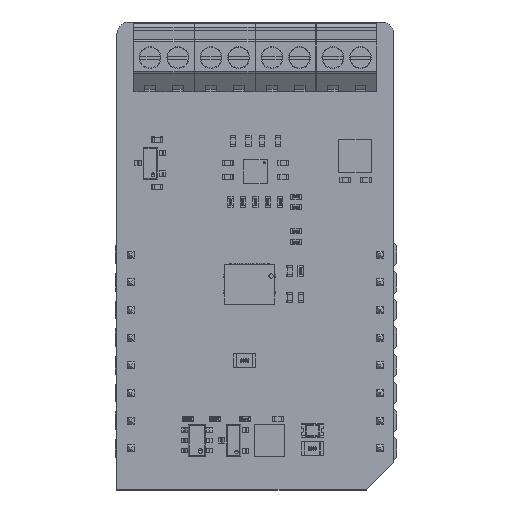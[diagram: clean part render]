
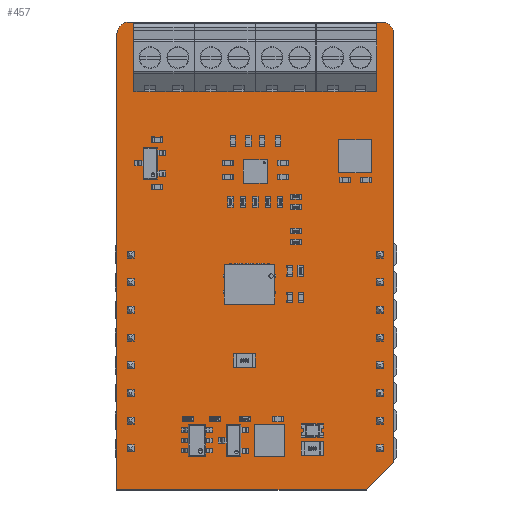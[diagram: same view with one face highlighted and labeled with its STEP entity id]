
A CAD part, top view. The second image highlights one B-rep face of the part: STEP entity #457.
In plain terms, the highlighted planar face has unit normal (0, 0, 1).
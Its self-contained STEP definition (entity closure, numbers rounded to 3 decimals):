
#228 = VERTEX_POINT('',#229);
#229 = CARTESIAN_POINT('',(-1.27,-3.81,1.65));
#235 = EDGE_CURVE('',#228,#236,#238,.T.);
#236 = VERTEX_POINT('',#237);
#237 = CARTESIAN_POINT('',(-1.27,37.989,1.65));
#238 = LINE('',#239,#240);
#239 = CARTESIAN_POINT('',(-1.27,-3.81,1.65));
#240 = VECTOR('',#241,1.);
#241 = DIRECTION('',(0.,1.,0.));
#266 = EDGE_CURVE('',#236,#267,#269,.T.);
#267 = VERTEX_POINT('',#268);
#268 = CARTESIAN_POINT('',(-0.143,39.116,1.65));
#269 = CIRCLE('',#270,1.127);
#270 = AXIS2_PLACEMENT_3D('',#271,#272,#273);
#271 = CARTESIAN_POINT('',(-0.143,37.989,1.65));
#272 = DIRECTION('',(0.,0.,-1.));
#273 = DIRECTION('',(-1.,0.,-0.));
#299 = EDGE_CURVE('',#267,#300,#302,.T.);
#300 = VERTEX_POINT('',#301);
#301 = CARTESIAN_POINT('',(23.006,39.116,1.65));
#302 = LINE('',#303,#304);
#303 = CARTESIAN_POINT('',(-0.143,39.116,1.65));
#304 = VECTOR('',#305,1.);
#305 = DIRECTION('',(1.,0.,0.));
#330 = EDGE_CURVE('',#300,#331,#333,.T.);
#331 = VERTEX_POINT('',#332);
#332 = CARTESIAN_POINT('',(24.13,37.992,1.65));
#333 = CIRCLE('',#334,1.123);
#334 = AXIS2_PLACEMENT_3D('',#335,#336,#337);
#335 = CARTESIAN_POINT('',(23.007,37.993,1.65));
#336 = DIRECTION('',(0.,0.,-1.));
#337 = DIRECTION('',(-0.001,1.,0.));
#363 = EDGE_CURVE('',#331,#364,#366,.T.);
#364 = VERTEX_POINT('',#365);
#365 = CARTESIAN_POINT('',(24.13,-1.27,1.65));
#366 = LINE('',#367,#368);
#367 = CARTESIAN_POINT('',(24.13,37.992,1.65));
#368 = VECTOR('',#369,1.);
#369 = DIRECTION('',(0.,-1.,0.));
#394 = EDGE_CURVE('',#364,#395,#397,.T.);
#395 = VERTEX_POINT('',#396);
#396 = CARTESIAN_POINT('',(21.59,-3.81,1.65));
#397 = LINE('',#398,#399);
#398 = CARTESIAN_POINT('',(24.13,-1.27,1.65));
#399 = VECTOR('',#400,1.);
#400 = DIRECTION('',(-0.707,-0.707,0.));
#425 = EDGE_CURVE('',#395,#228,#426,.T.);
#426 = LINE('',#427,#428);
#427 = CARTESIAN_POINT('',(21.59,-3.81,1.65));
#428 = VECTOR('',#429,1.);
#429 = DIRECTION('',(-1.,0.,0.));
#457 = ADVANCED_FACE('',(#458),#467,.F.);
#458 = FACE_BOUND('',#459,.F.);
#459 = EDGE_LOOP('',(#460,#461,#462,#463,#464,#465,#466));
#460 = ORIENTED_EDGE('',*,*,#235,.T.);
#461 = ORIENTED_EDGE('',*,*,#266,.T.);
#462 = ORIENTED_EDGE('',*,*,#299,.T.);
#463 = ORIENTED_EDGE('',*,*,#330,.T.);
#464 = ORIENTED_EDGE('',*,*,#363,.T.);
#465 = ORIENTED_EDGE('',*,*,#394,.T.);
#466 = ORIENTED_EDGE('',*,*,#425,.T.);
#467 = PLANE('',#468);
#468 = AXIS2_PLACEMENT_3D('',#469,#470,#471);
#469 = CARTESIAN_POINT('',(11.279,17.738,1.65));
#470 = DIRECTION('',(-0.,-0.,-1.));
#471 = DIRECTION('',(-1.,0.,0.));
